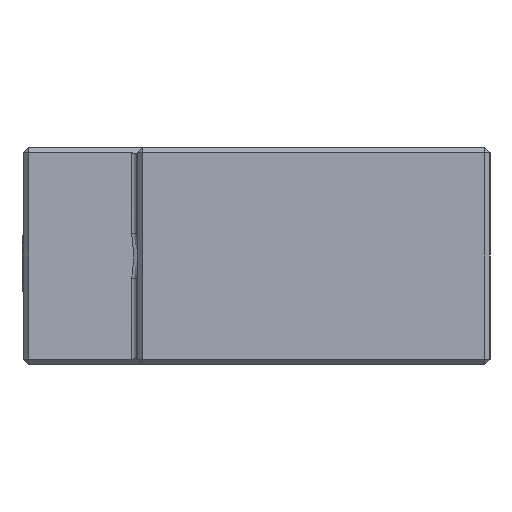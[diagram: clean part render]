
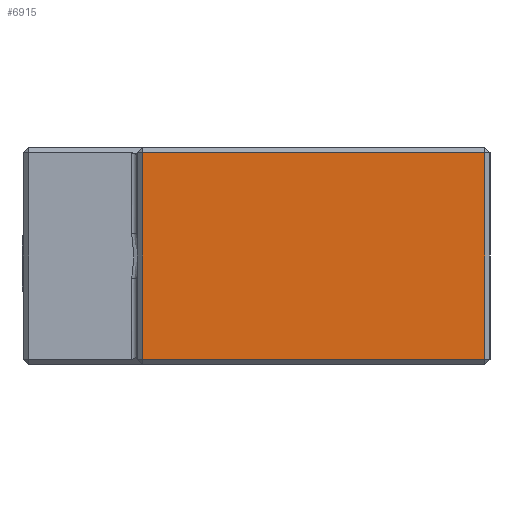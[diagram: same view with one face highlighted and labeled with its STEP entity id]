
A CAD part, left-side view. The second image highlights one B-rep face of the part: STEP entity #6915.
In plain terms, the highlighted planar face has unit normal (-1, 0, 0).
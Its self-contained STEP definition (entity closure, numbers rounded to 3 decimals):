
#656 = DIRECTION ( 'NONE',  ( 0., 0., 1. ) ) ;
#705 = CARTESIAN_POINT ( 'NONE',  ( -30., -21., 9.5 ) ) ;
#1288 = ORIENTED_EDGE ( 'NONE', *, *, #3736, .T. ) ;
#1580 = VECTOR ( 'NONE', #6631, 1000. ) ;
#1854 = DIRECTION ( 'NONE',  ( 1., 0., 0. ) ) ;
#1858 = EDGE_CURVE ( 'NONE', #10115, #5927, #7759, .T. ) ;
#2372 = CARTESIAN_POINT ( 'NONE',  ( -30., 10.5, -9.5 ) ) ;
#3115 = CARTESIAN_POINT ( 'NONE',  ( -30., 10.5, 9.5 ) ) ;
#3333 = VERTEX_POINT ( 'NONE', #705 ) ;
#3736 = EDGE_CURVE ( 'NONE', #10522, #3333, #6428, .T. ) ;
#3785 = LINE ( 'NONE', #10773, #1580 ) ;
#4235 = ORIENTED_EDGE ( 'NONE', *, *, #10185, .T. ) ;
#4556 = CARTESIAN_POINT ( 'NONE',  ( -30., -21.5, 9.5 ) ) ;
#5162 = PLANE ( 'NONE',  #5219 ) ;
#5219 = AXIS2_PLACEMENT_3D ( 'NONE', #7464, #1854, #7685 ) ;
#5791 = ORIENTED_EDGE ( 'NONE', *, *, #1858, .T. ) ;
#5912 = ORIENTED_EDGE ( 'NONE', *, *, #7827, .T. ) ;
#5927 = VERTEX_POINT ( 'NONE', #2372 ) ;
#6285 = CARTESIAN_POINT ( 'NONE',  ( -30., -21., -9.5 ) ) ;
#6428 = LINE ( 'NONE', #6468, #8383 ) ;
#6468 = CARTESIAN_POINT ( 'NONE',  ( -30., -21., 10. ) ) ;
#6631 = DIRECTION ( 'NONE',  ( 0., -1., 0. ) ) ;
#6673 = VECTOR ( 'NONE', #7089, 1000. ) ;
#6888 = EDGE_LOOP ( 'NONE', ( #5791, #4235, #1288, #5912 ) ) ;
#6915 = ADVANCED_FACE ( 'NONE', ( #10720 ), #5162, .F. ) ;
#7089 = DIRECTION ( 'NONE',  ( 0., 1., 0. ) ) ;
#7464 = CARTESIAN_POINT ( 'NONE',  ( -30., -21.5, 10. ) ) ;
#7477 = DIRECTION ( 'NONE',  ( 0., 0., -1. ) ) ;
#7685 = DIRECTION ( 'NONE',  ( 0., 0., -1. ) ) ;
#7759 = LINE ( 'NONE', #10777, #9961 ) ;
#7827 = EDGE_CURVE ( 'NONE', #3333, #10115, #10587, .T. ) ;
#8383 = VECTOR ( 'NONE', #656, 1000. ) ;
#9961 = VECTOR ( 'NONE', #7477, 1000. ) ;
#10115 = VERTEX_POINT ( 'NONE', #3115 ) ;
#10185 = EDGE_CURVE ( 'NONE', #5927, #10522, #3785, .T. ) ;
#10522 = VERTEX_POINT ( 'NONE', #6285 ) ;
#10587 = LINE ( 'NONE', #4556, #6673 ) ;
#10720 = FACE_OUTER_BOUND ( 'NONE', #6888, .T. ) ;
#10773 = CARTESIAN_POINT ( 'NONE',  ( -30., -21.5, -9.5 ) ) ;
#10777 = CARTESIAN_POINT ( 'NONE',  ( -30., 10.5, 10. ) ) ;
